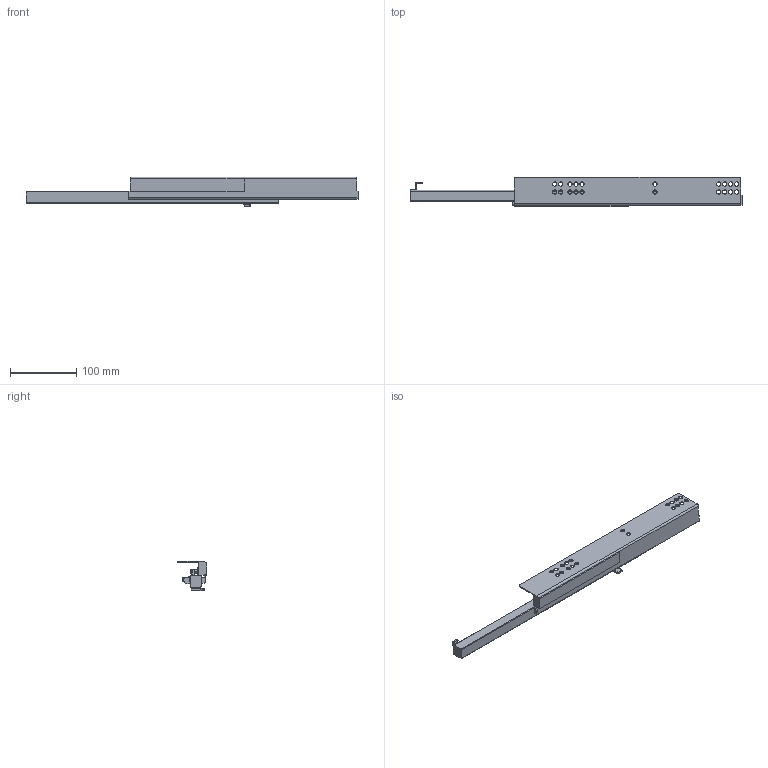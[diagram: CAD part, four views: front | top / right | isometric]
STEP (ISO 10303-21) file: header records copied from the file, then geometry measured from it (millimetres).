
FILE_DESCRIPTION (( 'STEP AP203' ), '1' );
FILE_NAME ('GG10500H-L-DTC3D-close.STEP', '2021-12-10T08:45:35', ( 'df' ), ( 'Microsoft' ), 'SwSTEP 2.0', 'SolidWorks 2018', '' );
FILE_SCHEMA (( 'CONFIG_CONTROL_DESIGN' ));
Length unit declared in the file: millimetre
Products named in the file (1): GG10500H-L-DTC3D-close
Bounding box: 500 x 44.1 x 44.73 mm (x, y, z)
Volume: 211949.6 mm3; surface area: 79074.6 mm2
Topology: 1 solids, 1 shells, 172 faces, 483 edges, 313 vertices
Faces by surface type: cylinder 88, plane 76, bspline 4, sphere 2, cone 2
Entity records: 5778 total; most frequent: CARTESIAN_POINT 1133, ORIENTED_EDGE 962, DIRECTION 955, EDGE_CURVE 481, AXIS2_PLACEMENT_3D 335, VERTEX_POINT 313, LINE 285, VECTOR 285
